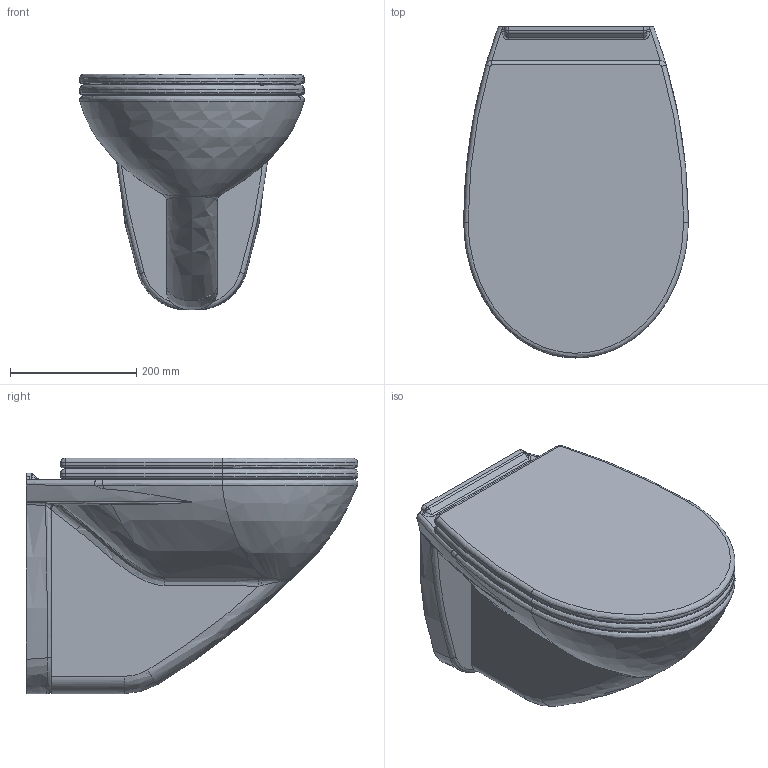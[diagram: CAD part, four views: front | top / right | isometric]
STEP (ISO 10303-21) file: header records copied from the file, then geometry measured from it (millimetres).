
FILE_DESCRIPTION((''),'2;1');
FILE_NAME('C:\Dokumente und Einstellungen\Huebner\Eigene Dateien\PRIVAT3\DURAPLUS\3D\BIDETY\BIDETY_STEP_4\019209.stp','2008-03-16T07:50:50',('Huebner'),(''),'Autodesk Inventor 11','Autodesk Inventor 11','');
FILE_SCHEMA(('AUTOMOTIVE_DESIGN { 1 0 10303 214 1 1 1 1 }'));
Length unit declared in the file: millimetre
Products named in the file (4): 019209; 00642_019209_1; 00642_019209_2
Assembly tree (3 placements, depth 2):
  019209
    019209
    00642_019209_1
    00642_019209_2
Bounding box: 356.35 x 526.82 x 374 mm (x, y, z)
Volume: 17416159.1 mm3; surface area: 1289767.3 mm2
Topology: 7 solids, 7 shells, 262 faces, 597 edges, 352 vertices
Faces by surface type: bspline 116, cylinder 69, plane 53, torus 22, sphere 2
Full cylindrical faces by diameter (mm): 12 x2, 14.142 x1, 15 x4, 15.62 x1, 19 x8, 48 x1, 55 x1, 67.606 x1, 84 x1, 102 x1
Entity records: 26684 total; most frequent: CARTESIAN_POINT 21490, ORIENTED_EDGE 1110, DIRECTION 901, EDGE_CURVE 555, AXIS2_PLACEMENT_3D 402, VERTEX_POINT 348, EDGE_LOOP 317, FACE_OUTER_BOUND 262
